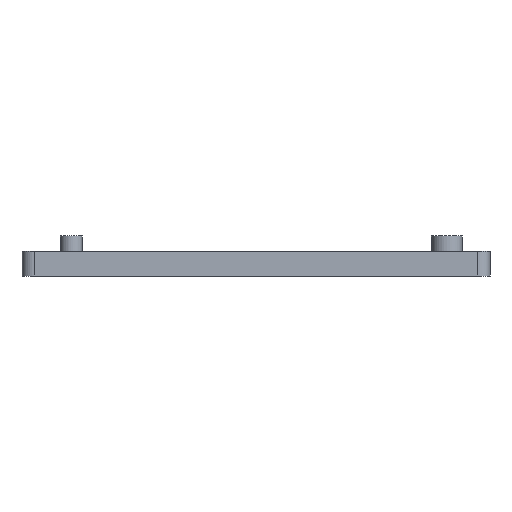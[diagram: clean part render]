
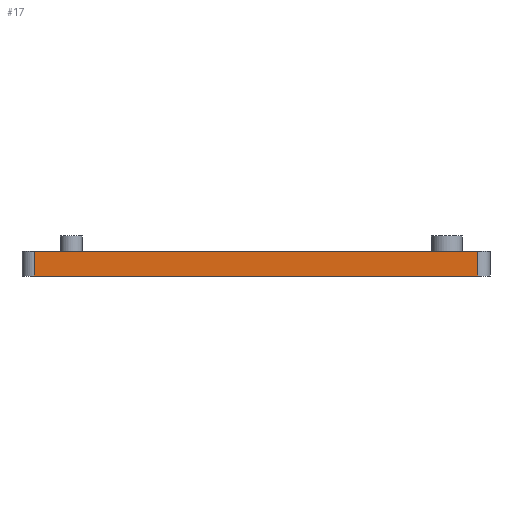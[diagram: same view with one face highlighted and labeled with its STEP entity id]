
A CAD part, left-side view. The second image highlights one B-rep face of the part: STEP entity #17.
In plain terms, the highlighted planar face has unit normal (-1, 0, 0).
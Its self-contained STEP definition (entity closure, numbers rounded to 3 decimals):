
#17 = ADVANCED_FACE('',(#18),#32,.F.);
#18 = FACE_BOUND('',#19,.F.);
#19 = EDGE_LOOP('',(#20,#55,#83,#111));
#20 = ORIENTED_EDGE('',*,*,#21,.F.);
#21 = EDGE_CURVE('',#22,#24,#26,.T.);
#22 = VERTEX_POINT('',#23);
#23 = CARTESIAN_POINT('',(-60.,-36.,4.));
#24 = VERTEX_POINT('',#25);
#25 = CARTESIAN_POINT('',(-60.,36.,4.));
#26 = SURFACE_CURVE('',#27,(#31,#43),.PCURVE_S1.);
#27 = LINE('',#28,#29);
#28 = CARTESIAN_POINT('',(-60.,-38.,4.));
#29 = VECTOR('',#30,1.);
#30 = DIRECTION('',(0.,1.,0.));
#31 = PCURVE('',#32,#37);
#32 = PLANE('',#33);
#33 = AXIS2_PLACEMENT_3D('',#34,#35,#36);
#34 = CARTESIAN_POINT('',(-60.,-38.,0.));
#35 = DIRECTION('',(1.,0.,0.));
#36 = DIRECTION('',(0.,0.,1.));
#37 = DEFINITIONAL_REPRESENTATION('',(#38),#42);
#38 = LINE('',#39,#40);
#39 = CARTESIAN_POINT('',(4.,0.));
#40 = VECTOR('',#41,1.);
#41 = DIRECTION('',(0.,-1.));
#42 = ( GEOMETRIC_REPRESENTATION_CONTEXT(2) 
PARAMETRIC_REPRESENTATION_CONTEXT() REPRESENTATION_CONTEXT('2D SPACE',''
  ) );
#43 = PCURVE('',#44,#49);
#44 = PLANE('',#45);
#45 = AXIS2_PLACEMENT_3D('',#46,#47,#48);
#46 = CARTESIAN_POINT('',(-60.,-38.,4.));
#47 = DIRECTION('',(0.,0.,1.));
#48 = DIRECTION('',(1.,0.,0.));
#49 = DEFINITIONAL_REPRESENTATION('',(#50),#54);
#50 = LINE('',#51,#52);
#51 = CARTESIAN_POINT('',(0.,0.));
#52 = VECTOR('',#53,1.);
#53 = DIRECTION('',(0.,1.));
#54 = ( GEOMETRIC_REPRESENTATION_CONTEXT(2) 
PARAMETRIC_REPRESENTATION_CONTEXT() REPRESENTATION_CONTEXT('2D SPACE',''
  ) );
#55 = ORIENTED_EDGE('',*,*,#56,.F.);
#56 = EDGE_CURVE('',#57,#22,#59,.T.);
#57 = VERTEX_POINT('',#58);
#58 = CARTESIAN_POINT('',(-60.,-36.,0.));
#59 = SURFACE_CURVE('',#60,(#64,#71),.PCURVE_S1.);
#60 = LINE('',#61,#62);
#61 = CARTESIAN_POINT('',(-60.,-36.,0.));
#62 = VECTOR('',#63,1.);
#63 = DIRECTION('',(0.,0.,1.));
#64 = PCURVE('',#32,#65);
#65 = DEFINITIONAL_REPRESENTATION('',(#66),#70);
#66 = LINE('',#67,#68);
#67 = CARTESIAN_POINT('',(0.,-2.));
#68 = VECTOR('',#69,1.);
#69 = DIRECTION('',(1.,0.));
#70 = ( GEOMETRIC_REPRESENTATION_CONTEXT(2) 
PARAMETRIC_REPRESENTATION_CONTEXT() REPRESENTATION_CONTEXT('2D SPACE',''
  ) );
#71 = PCURVE('',#72,#77);
#72 = CYLINDRICAL_SURFACE('',#73,2.);
#73 = AXIS2_PLACEMENT_3D('',#74,#75,#76);
#74 = CARTESIAN_POINT('',(-58.,-36.,0.));
#75 = DIRECTION('',(0.,0.,1.));
#76 = DIRECTION('',(-1.,-0.,0.));
#77 = DEFINITIONAL_REPRESENTATION('',(#78),#82);
#78 = LINE('',#79,#80);
#79 = CARTESIAN_POINT('',(0.,0.));
#80 = VECTOR('',#81,1.);
#81 = DIRECTION('',(0.,1.));
#82 = ( GEOMETRIC_REPRESENTATION_CONTEXT(2) 
PARAMETRIC_REPRESENTATION_CONTEXT() REPRESENTATION_CONTEXT('2D SPACE',''
  ) );
#83 = ORIENTED_EDGE('',*,*,#84,.T.);
#84 = EDGE_CURVE('',#57,#85,#87,.T.);
#85 = VERTEX_POINT('',#86);
#86 = CARTESIAN_POINT('',(-60.,36.,0.));
#87 = SURFACE_CURVE('',#88,(#92,#99),.PCURVE_S1.);
#88 = LINE('',#89,#90);
#89 = CARTESIAN_POINT('',(-60.,-38.,0.));
#90 = VECTOR('',#91,1.);
#91 = DIRECTION('',(0.,1.,0.));
#92 = PCURVE('',#32,#93);
#93 = DEFINITIONAL_REPRESENTATION('',(#94),#98);
#94 = LINE('',#95,#96);
#95 = CARTESIAN_POINT('',(0.,0.));
#96 = VECTOR('',#97,1.);
#97 = DIRECTION('',(0.,-1.));
#98 = ( GEOMETRIC_REPRESENTATION_CONTEXT(2) 
PARAMETRIC_REPRESENTATION_CONTEXT() REPRESENTATION_CONTEXT('2D SPACE',''
  ) );
#99 = PCURVE('',#100,#105);
#100 = PLANE('',#101);
#101 = AXIS2_PLACEMENT_3D('',#102,#103,#104);
#102 = CARTESIAN_POINT('',(-60.,-38.,0.));
#103 = DIRECTION('',(0.,0.,1.));
#104 = DIRECTION('',(1.,0.,0.));
#105 = DEFINITIONAL_REPRESENTATION('',(#106),#110);
#106 = LINE('',#107,#108);
#107 = CARTESIAN_POINT('',(0.,0.));
#108 = VECTOR('',#109,1.);
#109 = DIRECTION('',(0.,1.));
#110 = ( GEOMETRIC_REPRESENTATION_CONTEXT(2) 
PARAMETRIC_REPRESENTATION_CONTEXT() REPRESENTATION_CONTEXT('2D SPACE',''
  ) );
#111 = ORIENTED_EDGE('',*,*,#112,.T.);
#112 = EDGE_CURVE('',#85,#24,#113,.T.);
#113 = SURFACE_CURVE('',#114,(#118,#125),.PCURVE_S1.);
#114 = LINE('',#115,#116);
#115 = CARTESIAN_POINT('',(-60.,36.,0.));
#116 = VECTOR('',#117,1.);
#117 = DIRECTION('',(0.,0.,1.));
#118 = PCURVE('',#32,#119);
#119 = DEFINITIONAL_REPRESENTATION('',(#120),#124);
#120 = LINE('',#121,#122);
#121 = CARTESIAN_POINT('',(0.,-74.));
#122 = VECTOR('',#123,1.);
#123 = DIRECTION('',(1.,0.));
#124 = ( GEOMETRIC_REPRESENTATION_CONTEXT(2) 
PARAMETRIC_REPRESENTATION_CONTEXT() REPRESENTATION_CONTEXT('2D SPACE',''
  ) );
#125 = PCURVE('',#126,#131);
#126 = CYLINDRICAL_SURFACE('',#127,2.);
#127 = AXIS2_PLACEMENT_3D('',#128,#129,#130);
#128 = CARTESIAN_POINT('',(-58.,36.,0.));
#129 = DIRECTION('',(0.,0.,1.));
#130 = DIRECTION('',(-1.,-0.,0.));
#131 = DEFINITIONAL_REPRESENTATION('',(#132),#136);
#132 = LINE('',#133,#134);
#133 = CARTESIAN_POINT('',(-0.,0.));
#134 = VECTOR('',#135,1.);
#135 = DIRECTION('',(-0.,1.));
#136 = ( GEOMETRIC_REPRESENTATION_CONTEXT(2) 
PARAMETRIC_REPRESENTATION_CONTEXT() REPRESENTATION_CONTEXT('2D SPACE',''
  ) );
